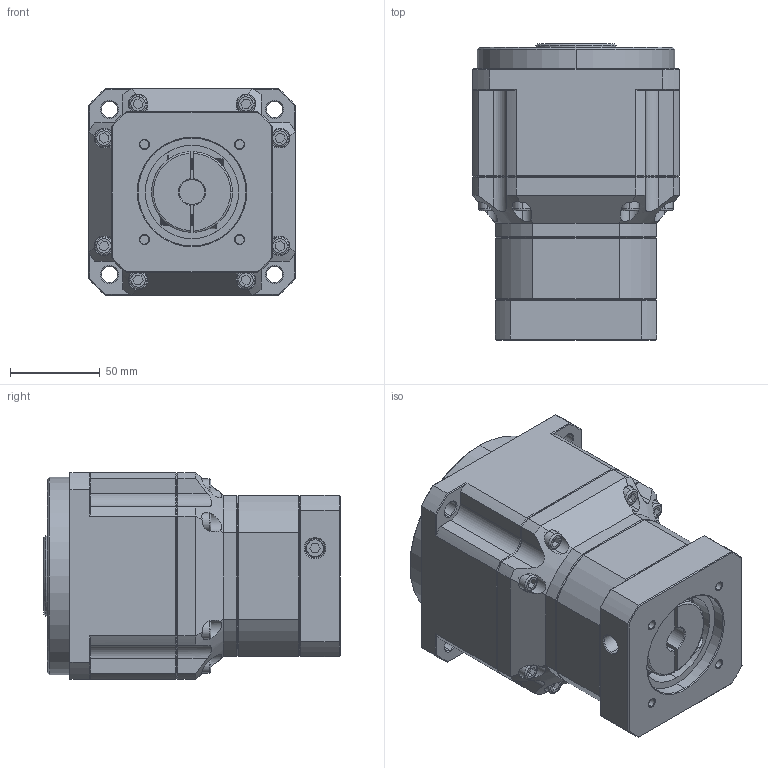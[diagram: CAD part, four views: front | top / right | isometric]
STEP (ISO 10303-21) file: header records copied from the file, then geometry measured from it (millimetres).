
FILE_DESCRIPTION (( 'STEP AP214' ), '1' );
FILE_NAME ('ZPB115-K32-L2-P1-14-60-75-M6.step', '2024-06-12T09:59:22', ( 'Windows 蚚誧' ), ( 'Organization' ), 'SwSTEP 2.0', 'SolidWorks 2016', '' );
FILE_SCHEMA (( 'AUTOMOTIVE_DESIGN' ));
Length unit declared in the file: millimetre
Products named in the file (1): ZPB115-K32-L2-P1-14-60-75-M6
Bounding box: 115 x 165 x 115 mm (x, y, z)
Surface area: 112551 mm2 (no closed solid volume)
Topology: 0 solids, 2 shells, 1734 faces, 4669 edges, 3039 vertices
Faces by surface type: plane 1013, bspline 392, cylinder 187, cone 142
Entity records: 85203 total; most frequent: CARTESIAN_POINT 38483, ORIENTED_EDGE 9336, DIRECTION 6891, EDGE_CURVE 4669, LINE 3151, VECTOR 3151, VERTEX_POINT 3039, AXIS2_PLACEMENT_3D 1870
